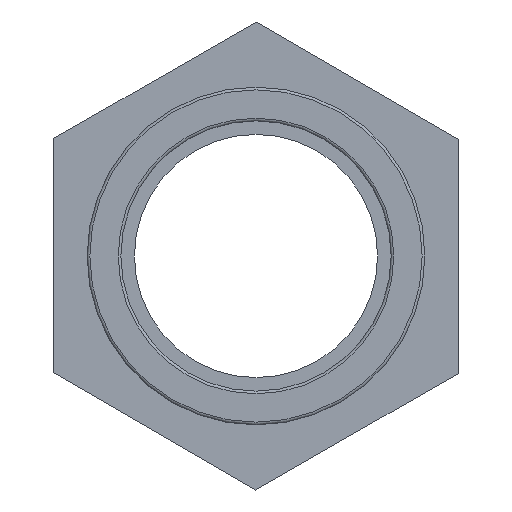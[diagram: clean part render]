
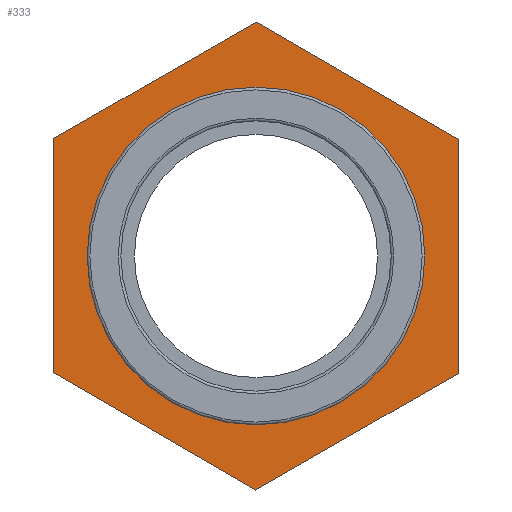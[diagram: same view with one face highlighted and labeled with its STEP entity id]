
A CAD part, left-side view. The second image highlights one B-rep face of the part: STEP entity #333.
In plain terms, the highlighted planar face has unit normal (-1, 0, 0).
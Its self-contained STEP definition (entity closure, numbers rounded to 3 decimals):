
#17=LINE('',#517,#35);
#21=LINE('',#525,#39);
#24=LINE('',#531,#42);
#27=LINE('',#538,#45);
#31=LINE('',#545,#49);
#33=LINE('',#548,#51);
#35=VECTOR('',#425,17.321);
#39=VECTOR('',#431,17.321);
#42=VECTOR('',#436,17.321);
#45=VECTOR('',#441,17.321);
#49=VECTOR('',#447,17.321);
#51=VECTOR('',#451,17.321);
#70=PLANE('',#376);
#88=FACE_BOUND('',#154,.T.);
#112=FACE_OUTER_BOUND('',#153,.T.);
#153=EDGE_LOOP('',(#299,#300,#301,#302,#303,#304));
#154=EDGE_LOOP('',(#305));
#166=CIRCLE('',#357,12.5);
#183=VERTEX_POINT('',#512);
#184=VERTEX_POINT('',#515);
#185=VERTEX_POINT('',#516);
#188=VERTEX_POINT('',#524);
#190=VERTEX_POINT('',#530);
#192=VERTEX_POINT('',#536);
#193=VERTEX_POINT('',#537);
#212=EDGE_CURVE('',#183,#183,#166,.T.);
#213=EDGE_CURVE('',#184,#185,#17,.T.);
#217=EDGE_CURVE('',#185,#188,#21,.T.);
#220=EDGE_CURVE('',#188,#190,#24,.T.);
#223=EDGE_CURVE('',#192,#193,#27,.T.);
#227=EDGE_CURVE('',#193,#184,#31,.T.);
#229=EDGE_CURVE('',#190,#192,#33,.T.);
#299=ORIENTED_EDGE('',*,*,#227,.F.);
#300=ORIENTED_EDGE('',*,*,#223,.F.);
#301=ORIENTED_EDGE('',*,*,#229,.F.);
#302=ORIENTED_EDGE('',*,*,#220,.F.);
#303=ORIENTED_EDGE('',*,*,#217,.F.);
#304=ORIENTED_EDGE('',*,*,#213,.F.);
#305=ORIENTED_EDGE('',*,*,#212,.F.);
#333=ADVANCED_FACE('',(#112,#88),#70,.T.);
#357=AXIS2_PLACEMENT_3D('',#513,#421,#422);
#376=AXIS2_PLACEMENT_3D('',#567,#477,#478);
#421=DIRECTION('center_axis',(-1.,0.,0.));
#422=DIRECTION('ref_axis',(0.,0.,1.));
#425=DIRECTION('',(0.,0.003,-1.));
#431=DIRECTION('',(0.,0.867,-0.498));
#436=DIRECTION('',(0.,0.865,0.502));
#441=DIRECTION('',(0.,-0.867,0.498));
#447=DIRECTION('',(0.,-0.865,-0.502));
#451=DIRECTION('',(0.,-0.003,1.));
#477=DIRECTION('center_axis',(-1.,0.,0.));
#478=DIRECTION('ref_axis',(0.,0.,1.));
#512=CARTESIAN_POINT('',(-4.,-12.5,0.));
#513=CARTESIAN_POINT('Origin',(-4.,0.,0.));
#515=CARTESIAN_POINT('',(-4.,-15.023,8.62));
#516=CARTESIAN_POINT('',(-4.,-14.977,-8.701));
#517=CARTESIAN_POINT('',(-4.,-14.988,-4.371));
#524=CARTESIAN_POINT('',(-4.,0.047,-17.32));
#525=CARTESIAN_POINT('',(-4.,-3.709,-15.165));
#530=CARTESIAN_POINT('',(-4.,15.023,-8.62));
#531=CARTESIAN_POINT('',(-4.,11.279,-10.795));
#536=CARTESIAN_POINT('',(-4.,14.977,8.701));
#537=CARTESIAN_POINT('',(-4.,-0.047,17.32));
#538=CARTESIAN_POINT('',(-4.,3.709,15.165));
#545=CARTESIAN_POINT('',(-4.,-11.279,10.795));
#548=CARTESIAN_POINT('',(-4.,15.,0.04));
#567=CARTESIAN_POINT('Origin',(-4.,-12.5,0.));
